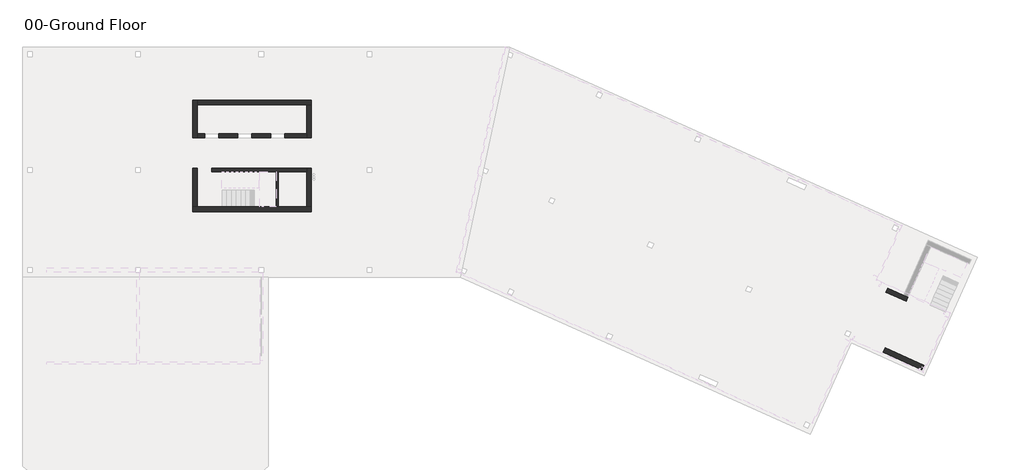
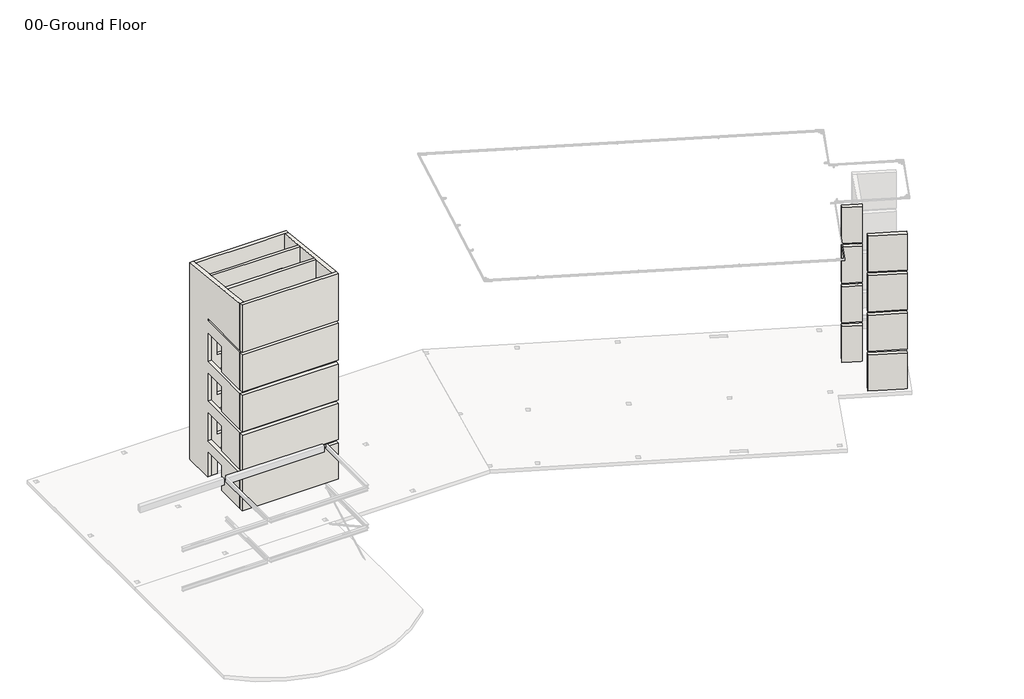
# One storey, part 1 of 5: 9 walls.
"""IFC4 building model written with IfcOpenShell, lengths in millimetres."""

from ifc_helpers import new_model, si_unit, frame, origin, origin_with_axes, place, context, project, spatial, polyline, outline, extrude, faceted_brep, element, save

model = new_model("IFC4")

# Units and contexts
model_context = context("Model", 3, world=origin())
ifc_project = project(units=[si_unit("LENGTHUNIT", "METRE", prefix="MILLI")], contexts=[model_context])

# Site, building, storey
site = spatial("IfcSite", under=ifc_project)
building = spatial("IfcBuilding", under=site)
storey = spatial("IfcBuildingStorey", under=building, Name="00-Ground Floor", Elevation=0.0)

# Walls
placement = place(None, origin())
element("IfcWall", 1, ObjectType="6\" Blockwork with render", at=placement, inside=storey, context=model_context, shape_type="SweptSolid", body=[
    extrude(outline(polyline([(16103.6, -7632.7), (16103.6, -9893.3), (15951.2, -9893.3), (15951.2, -7632.7), (16103.6, -7632.7)])), origin_with_axes(), (0.0, 0.0, 1.0), 3048.0),
])
element("IfcWall", 2, ObjectType="RC Wall 10\"", at=placement, inside=storey, context=model_context, shape_type="Brep", body=[
    faceted_brep([(17945.1, -5422.9, 16899.0824764), (10858.5, -5422.9, 16899.0824764), (10858.5, -5422.9, 13411.2), (10858.5, -5422.9, 13208.0), (10858.5, -5422.9, 12192.0), (10858.5, -5422.9, 10058.4), (10858.5, -5422.9, 9753.6), (10858.5, -5422.9, 8839.2), (10858.5, -5422.9, 6705.6), (10858.5, -5422.9, 6400.8), (10858.5, -5422.9, 5486.4), (10858.5, -5422.9, 3352.8), (10858.5, -5422.9, 3048.0), (10858.5, -5422.9, 2133.6), (10858.5, -5422.9, 0.0), (11328.4, -5422.9, 0.0), (11328.4, -5422.9, 2133.6), (12242.8, -5422.9, 2133.6), (12242.8, -5422.9, 0.0), (13474.7, -5422.9, 0.0), (13474.7, -5422.9, 2133.6), (14389.1, -5422.9, 2133.6), (14389.1, -5422.9, 0.0), (15608.3, -5422.9, 0.0), (15608.3, -5422.9, 2133.6), (16522.7, -5422.9, 2133.6), (16522.7, -5422.9, 0.0), (17945.1, -5422.9, 0.0), (17945.1, -5422.9, 2133.6), (17945.1, -5422.9, 3048.0), (17005.3, -5422.9, 3048.0), (17005.3, -5422.9, 3352.8), (17945.1, -5422.9, 3352.8), (17945.1, -5422.9, 5486.4), (17945.1, -5422.9, 6400.8), (17005.3, -5422.9, 6400.8), (17005.3, -5422.9, 6705.6), (17945.1, -5422.9, 6705.6), (17945.1, -5422.9, 8839.2), (17945.1, -5422.9, 9753.6), (17005.3, -5422.9, 9753.6), (17005.3, -5422.9, 10058.4), (17945.1, -5422.9, 10058.4), (17945.1, -5422.9, 12192.0), (17945.1, -5422.9, 13208.0), (17005.3, -5422.9, 13208.0), (17005.3, -5422.9, 13411.2), (17945.1, -5422.9, 13411.2), (17945.1, -5422.9, 15544.8), (15608.3, -5422.9, 3352.8), (15608.3, -5422.9, 5486.4), (16522.7, -5422.9, 5486.4), (16522.7, -5422.9, 3352.8), (13474.7, -5422.9, 3352.8), (13474.7, -5422.9, 5486.4), (14389.1, -5422.9, 5486.4), (14389.1, -5422.9, 3352.8), (11328.4, -5422.9, 3352.8), (11328.4, -5422.9, 5486.4), (12242.8, -5422.9, 5486.4), (12242.8, -5422.9, 3352.8), (15608.3, -5422.9, 6705.6), (15608.3, -5422.9, 8839.2), (16522.7, -5422.9, 8839.2), (16522.7, -5422.9, 6705.6), (13474.7, -5422.9, 6705.6), (13474.7, -5422.9, 8839.2), (14389.1, -5422.9, 8839.2), (14389.1, -5422.9, 6705.6), (11328.4, -5422.9, 6705.6), (11328.4, -5422.9, 8839.2), (12242.8, -5422.9, 8839.2), (12242.8, -5422.9, 6705.6), (15608.3, -5422.9, 10058.4), (15608.3, -5422.9, 12192.0), (16522.7, -5422.9, 12192.0), (16522.7, -5422.9, 10058.4), (13474.7, -5422.9, 10058.4), (13474.7, -5422.9, 12192.0), (14389.1, -5422.9, 12192.0), (14389.1, -5422.9, 10058.4), (11328.4, -5422.9, 10058.4), (11328.4, -5422.9, 12192.0), (12242.8, -5422.9, 12192.0), (12242.8, -5422.9, 10058.4), (15608.3, -5422.9, 13411.2), (15608.3, -5422.9, 15544.8), (16522.7, -5422.9, 15544.8), (16522.7, -5422.9, 13411.2), (13474.7, -5422.9, 13411.2), (13474.7, -5422.9, 15544.8), (14389.1, -5422.9, 15544.8), (14389.1, -5422.9, 13411.2), (11328.4, -5422.9, 13411.2), (11328.4, -5422.9, 15544.8), (12242.8, -5422.9, 15544.8), (12242.8, -5422.9, 13411.2), (10858.5, -5168.9, 0.0), (10858.5, -5168.9, 16872.3860006), (12738.1, -5168.9, 16872.3860006), (12992.1, -5168.9, 16872.3860006), (14871.7, -5168.9, 16872.3860006), (15125.7, -5168.9, 16872.3860006), (17945.1, -5168.9, 16872.3860006), (17945.1, -5168.9, 13411.2), (17005.3, -5168.9, 13411.2), (17005.3, -5168.9, 13208.0), (17945.1, -5168.9, 13208.0), (17945.1, -5168.9, 10058.4), (17005.3, -5168.9, 10058.4), (17005.3, -5168.9, 9753.6), (17945.1, -5168.9, 9753.6), (17945.1, -5168.9, 6705.6), (17005.3, -5168.9, 6705.6), (17005.3, -5168.9, 6400.8), (17945.1, -5168.9, 6400.8), (17945.1, -5168.9, 3352.8), (17005.3, -5168.9, 3352.8), (17005.3, -5168.9, 3048.0), (17945.1, -5168.9, 3048.0), (17945.1, -5168.9, 0.0), (16522.7, -5168.9, 0.0), (16522.7, -5168.9, 2133.6), (15608.3, -5168.9, 2133.6), (15608.3, -5168.9, 0.0), (15125.7, -5168.9, 0.0), (14871.7, -5168.9, 0.0), (14389.1, -5168.9, 0.0), (14389.1, -5168.9, 2133.6), (13474.7, -5168.9, 2133.6), (13474.7, -5168.9, 0.0), (12992.1, -5168.9, 0.0), (12738.1, -5168.9, 0.0), (12242.8, -5168.9, 0.0), (12242.8, -5168.9, 2133.6), (11328.4, -5168.9, 2133.6), (11328.4, -5168.9, 0.0), (15608.3, -5168.9, 5486.4), (15608.3, -5168.9, 3352.8), (16522.7, -5168.9, 3352.8), (16522.7, -5168.9, 5486.4), (13474.7, -5168.9, 5486.4), (13474.7, -5168.9, 3352.8), (14389.1, -5168.9, 3352.8), (14389.1, -5168.9, 5486.4), (11328.4, -5168.9, 5486.4), (11328.4, -5168.9, 3352.8), (12242.8, -5168.9, 3352.8), (12242.8, -5168.9, 5486.4), (15608.3, -5168.9, 8839.2), (15608.3, -5168.9, 6705.6), (16522.7, -5168.9, 6705.6), (16522.7, -5168.9, 8839.2), (13474.7, -5168.9, 8839.2), (13474.7, -5168.9, 6705.6), (14389.1, -5168.9, 6705.6), (14389.1, -5168.9, 8839.2), (11328.4, -5168.9, 8839.2), (11328.4, -5168.9, 6705.6), (12242.8, -5168.9, 6705.6), (12242.8, -5168.9, 8839.2), (15608.3, -5168.9, 12192.0), (15608.3, -5168.9, 10058.4), (16522.7, -5168.9, 10058.4), (16522.7, -5168.9, 12192.0), (13474.7, -5168.9, 12192.0), (13474.7, -5168.9, 10058.4), (14389.1, -5168.9, 10058.4), (14389.1, -5168.9, 12192.0), (11328.4, -5168.9, 12192.0), (11328.4, -5168.9, 10058.4), (12242.8, -5168.9, 10058.4), (12242.8, -5168.9, 12192.0), (15608.3, -5168.9, 15544.8), (15608.3, -5168.9, 13411.2), (16522.7, -5168.9, 13411.2), (16522.7, -5168.9, 15544.8), (13474.7, -5168.9, 15544.8), (13474.7, -5168.9, 13411.2), (14389.1, -5168.9, 13411.2), (14389.1, -5168.9, 15544.8), (11328.4, -5168.9, 15544.8), (11328.4, -5168.9, 13411.2), (12242.8, -5168.9, 13411.2), (12242.8, -5168.9, 15544.8)], [[[0, 1, 2, 3, 4, 5, 6, 7, 8, 9, 10, 11, 12, 13, 14, 15, 16, 17, 18, 19, 20, 21, 22, 23, 24, 25, 26, 27, 28, 29, 30, 31, 32, 33, 34, 35, 36, 37, 38, 39, 40, 41, 42, 43, 44, 45, 46, 47, 48], [49, 50, 51, 52], [53, 54, 55, 56], [57, 58, 59, 60], [61, 62, 63, 64], [65, 66, 67, 68], [69, 70, 71, 72], [73, 74, 75, 76], [77, 78, 79, 80], [81, 82, 83, 84], [85, 86, 87, 88], [89, 90, 91, 92], [93, 94, 95, 96]], [[97, 98, 99, 100, 101, 102, 103, 104, 105, 106, 107, 108, 109, 110, 111, 112, 113, 114, 115, 116, 117, 118, 119, 120, 121, 122, 123, 124, 125, 126, 127, 128, 129, 130, 131, 132, 133, 134, 135, 136], [137, 138, 139, 140], [141, 142, 143, 144], [145, 146, 147, 148], [149, 150, 151, 152], [153, 154, 155, 156], [157, 158, 159, 160], [161, 162, 163, 164], [165, 166, 167, 168], [169, 170, 171, 172], [173, 174, 175, 176], [177, 178, 179, 180], [181, 182, 183, 184]], [[14, 97, 136, 15]], [[120, 27, 26, 121]], [[18, 133, 132, 131, 130, 19]], [[22, 127, 126, 125, 124, 23]], [[98, 97, 14, 13, 12, 11, 10, 9, 8, 7, 6, 5, 4, 3, 2, 1]], [[27, 120, 119, 29, 28]], [[103, 0, 48, 47, 104]], [[107, 44, 43, 42, 108]], [[111, 39, 38, 37, 112]], [[115, 34, 33, 32, 116]], [[1, 0, 103, 102, 101, 100, 99, 98]], [[136, 135, 16, 15]], [[134, 133, 18, 17]], [[135, 134, 17, 16]], [[130, 129, 20, 19]], [[128, 127, 22, 21]], [[129, 128, 21, 20]], [[124, 123, 24, 23]], [[122, 121, 26, 25]], [[123, 122, 25, 24]], [[138, 137, 50, 49]], [[139, 138, 49, 52]], [[140, 139, 52, 51]], [[137, 140, 51, 50]], [[142, 141, 54, 53]], [[143, 142, 53, 56]], [[144, 143, 56, 55]], [[141, 144, 55, 54]], [[146, 145, 58, 57]], [[147, 146, 57, 60]], [[148, 147, 60, 59]], [[145, 148, 59, 58]], [[150, 149, 62, 61]], [[151, 150, 61, 64]], [[152, 151, 64, 63]], [[149, 152, 63, 62]], [[154, 153, 66, 65]], [[155, 154, 65, 68]], [[156, 155, 68, 67]], [[153, 156, 67, 66]], [[158, 157, 70, 69]], [[159, 158, 69, 72]], [[160, 159, 72, 71]], [[157, 160, 71, 70]], [[162, 161, 74, 73]], [[163, 162, 73, 76]], [[164, 163, 76, 75]], [[161, 164, 75, 74]], [[166, 165, 78, 77]], [[167, 166, 77, 80]], [[168, 167, 80, 79]], [[165, 168, 79, 78]], [[170, 169, 82, 81]], [[171, 170, 81, 84]], [[172, 171, 84, 83]], [[169, 172, 83, 82]], [[174, 173, 86, 85]], [[175, 174, 85, 88]], [[176, 175, 88, 87]], [[173, 176, 87, 86]], [[178, 177, 90, 89]], [[179, 178, 89, 92]], [[180, 179, 92, 91]], [[177, 180, 91, 90]], [[182, 181, 94, 93]], [[183, 182, 93, 96]], [[184, 183, 96, 95]], [[181, 184, 95, 94]], [[106, 45, 44, 107]], [[46, 105, 104, 47]], [[45, 106, 105, 46]], [[110, 40, 39, 111]], [[41, 109, 108, 42]], [[40, 110, 109, 41]], [[114, 35, 34, 115]], [[36, 113, 112, 37]], [[35, 114, 113, 36]], [[118, 30, 29, 119]], [[31, 117, 116, 32]], [[30, 118, 117, 31]]]),
])
element("IfcWall", 3, ObjectType="RC Wall 10\"", at=placement, inside=storey, context=model_context, shape_type="Brep", body=[
    faceted_brep([(17945.1, -7632.7, 17131.3418155), (10858.5, -7632.7, 17131.3418155), (10858.5, -7632.7, 15544.8), (11772.9, -7632.7, 15544.8), (11772.9, -7632.7, 13411.2), (15951.2, -7632.7, 13411.2), (16103.6, -7632.7, 13411.2), (17945.1, -7632.7, 13411.2), (10858.5, -7378.7, 17104.6453397), (17945.1, -7378.7, 17104.6453397), (17945.1, -7378.7, 15544.8), (17945.1, -7378.7, 13411.2), (11772.9, -7378.7, 13411.2), (11772.9, -7378.7, 15544.8), (10858.5, -7378.7, 15544.8)], [[[0, 1, 2, 3, 4, 5, 6, 7]], [[8, 9, 10, 11, 12, 13, 14]], [[1, 8, 14, 2]], [[9, 0, 7, 11, 10]], [[1, 0, 9, 8]], [[13, 12, 4, 3]], [[14, 13, 3, 2]], [[7, 6, 5, 4, 12, 11]]]),
    faceted_brep([(11772.9, -7632.7, 0.0), (15951.2, -7632.7, 0.0), (16103.6, -7632.7, 0.0), (17945.1, -7632.7, 0.0), (17945.1, -7632.7, 3048.0), (16103.6, -7632.7, 3048.0), (15951.2, -7632.7, 3048.0), (10858.5, -7632.7, 3048.0), (10858.5, -7632.7, 2133.6), (11772.9, -7632.7, 2133.6), (17945.1, -7378.7, 0.0), (11772.9, -7378.7, 0.0), (11772.9, -7378.7, 2133.6), (10858.5, -7378.7, 2133.6), (10858.5, -7378.7, 3048.0), (17945.1, -7378.7, 3048.0), (17945.1, -7378.7, 2133.6)], [[[0, 1, 2, 3, 4, 5, 6, 7, 8, 9]], [[10, 11, 12, 13, 14, 15, 16]], [[10, 3, 2, 1, 0, 11]], [[13, 8, 7, 14]], [[3, 10, 16, 15, 4]], [[9, 12, 11, 0]], [[12, 9, 8, 13]], [[7, 6, 5, 4, 15, 14]]]),
    faceted_brep([(11772.9, -7632.7, 5486.4), (11772.9, -7632.7, 3352.8), (15951.2, -7632.7, 3352.8), (16103.6, -7632.7, 3352.8), (17945.1, -7632.7, 3352.8), (17945.1, -7632.7, 6400.8), (16103.6, -7632.7, 6400.8), (15951.2, -7632.7, 6400.8), (10858.5, -7632.7, 6400.8), (10858.5, -7632.7, 5486.4), (11772.9, -7378.7, 3352.8), (11772.9, -7378.7, 5486.4), (10858.5, -7378.7, 5486.4), (10858.5, -7378.7, 6400.8), (17945.1, -7378.7, 6400.8), (17945.1, -7378.7, 5486.4), (17945.1, -7378.7, 3352.8)], [[[0, 1, 2, 3, 4, 5, 6, 7, 8, 9]], [[10, 11, 12, 13, 14, 15, 16]], [[12, 9, 8, 13]], [[4, 16, 15, 14, 5]], [[11, 10, 1, 0]], [[12, 11, 0, 9]], [[4, 3, 2, 1, 10, 16]], [[8, 7, 6, 5, 14, 13]]]),
    faceted_brep([(11772.9, -7632.7, 8839.2), (11772.9, -7632.7, 6705.6), (15951.2, -7632.7, 6705.6), (16103.6, -7632.7, 6705.6), (17945.1, -7632.7, 6705.6), (17945.1, -7632.7, 9753.6), (16103.6, -7632.7, 9753.6), (15951.2, -7632.7, 9753.6), (10858.5, -7632.7, 9753.6), (10858.5, -7632.7, 8839.2), (11772.9, -7378.7, 6705.6), (11772.9, -7378.7, 8839.2), (10858.5, -7378.7, 8839.2), (10858.5, -7378.7, 9753.6), (17945.1, -7378.7, 9753.6), (17945.1, -7378.7, 8839.2), (17945.1, -7378.7, 6705.6)], [[[0, 1, 2, 3, 4, 5, 6, 7, 8, 9]], [[10, 11, 12, 13, 14, 15, 16]], [[12, 9, 8, 13]], [[4, 16, 15, 14, 5]], [[11, 10, 1, 0]], [[12, 11, 0, 9]], [[4, 3, 2, 1, 10, 16]], [[8, 7, 6, 5, 14, 13]]]),
    faceted_brep([(11772.9, -7632.7, 12192.0), (11772.9, -7632.7, 10058.4), (15951.2, -7632.7, 10058.4), (16103.6, -7632.7, 10058.4), (17945.1, -7632.7, 10058.4), (17945.1, -7632.7, 13208.0), (16103.6, -7632.7, 13208.0), (15951.2, -7632.7, 13208.0), (10858.5, -7632.7, 13208.0), (10858.5, -7632.7, 12192.0), (11772.9, -7378.7, 10058.4), (11772.9, -7378.7, 12192.0), (10858.5, -7378.7, 12192.0), (10858.5, -7378.7, 13208.0), (17945.1, -7378.7, 13208.0), (17945.1, -7378.7, 12192.0), (17945.1, -7378.7, 10058.4)], [[[0, 1, 2, 3, 4, 5, 6, 7, 8, 9]], [[10, 11, 12, 13, 14, 15, 16]], [[12, 9, 8, 13]], [[14, 5, 4, 16, 15]], [[11, 10, 1, 0]], [[12, 11, 0, 9]], [[8, 7, 6, 5, 14, 13]], [[4, 3, 2, 1, 10, 16]]]),
])
element("IfcWall", 4, ObjectType="RC Wall 12\"", at=placement, inside=storey, context=model_context, shape_type="Brep", body=[
    faceted_brep([(18249.9, -9893.3, 0.0), (17945.1, -9893.3, 0.0), (16103.6, -9893.3, 0.0), (15951.2, -9893.3, 0.0), (10858.5, -9893.3, 0.0), (10553.7, -9893.3, 0.0), (10553.7, -9893.3, 3048.0), (10858.5, -9893.3, 3048.0), (12446.0, -9893.3, 3048.0), (15951.2, -9893.3, 3048.0), (16103.6, -9893.3, 3048.0), (17945.1, -9893.3, 3048.0), (18249.9, -9893.3, 3048.0), (10553.7, -10198.1, 0.0), (18249.9, -10198.1, 0.0), (18249.9, -10198.1, 3048.0), (10553.7, -10198.1, 3048.0)], [[[0, 1, 2, 3, 4, 5, 6, 7, 8, 9, 10, 11, 12]], [[13, 14, 15, 16]], [[5, 4, 3, 2, 1, 0, 14, 13]], [[5, 13, 16, 6]], [[14, 0, 12, 15]], [[8, 7, 6, 16, 15, 12, 11, 10, 9]]]),
    faceted_brep([(10553.7, -9893.3, 17368.9404497), (10858.5, -9893.3, 17368.9404497), (17945.1, -9893.3, 17368.9404497), (18249.9, -9893.3, 17368.9404497), (18249.9, -9893.3, 13411.2), (17945.1, -9893.3, 13411.2), (16103.6, -9893.3, 13411.2), (15951.2, -9893.3, 13411.2), (12446.0, -9893.3, 13411.2), (10858.5, -9893.3, 13411.2), (10553.7, -9893.3, 13411.2), (18249.9, -10198.1, 17400.9762206), (10553.7, -10198.1, 17400.9762206), (10553.7, -10198.1, 13411.2), (18249.9, -10198.1, 13411.2)], [[[0, 1, 2, 3, 4, 5, 6, 7, 8, 9, 10]], [[11, 12, 13, 14]], [[12, 0, 10, 13]], [[3, 11, 14, 4]], [[3, 2, 1, 0, 12, 11]], [[10, 9, 8, 7, 6, 5, 4, 14, 13]]]),
    faceted_brep([(10553.7, -9893.3, 13208.0), (10858.5, -9893.3, 13208.0), (12446.0, -9893.3, 13208.0), (15951.2, -9893.3, 13208.0), (16103.6, -9893.3, 13208.0), (17945.1, -9893.3, 13208.0), (18249.9, -9893.3, 13208.0), (18249.9, -9893.3, 10058.4), (17945.1, -9893.3, 10058.4), (16103.6, -9893.3, 10058.4), (15951.2, -9893.3, 10058.4), (12446.0, -9893.3, 10058.4), (10858.5, -9893.3, 10058.4), (10553.7, -9893.3, 10058.4), (18249.9, -10198.1, 13208.0), (10553.7, -10198.1, 13208.0), (10553.7, -10198.1, 10058.4), (18249.9, -10198.1, 10058.4)], [[[0, 1, 2, 3, 4, 5, 6, 7, 8, 9, 10, 11, 12, 13]], [[14, 15, 16, 17]], [[15, 0, 13, 16]], [[6, 14, 17, 7]], [[2, 1, 0, 15, 14, 6, 5, 4, 3]], [[13, 12, 11, 10, 9, 8, 7, 17, 16]]]),
    faceted_brep([(10553.7, -9893.3, 9753.6), (10858.5, -9893.3, 9753.6), (12446.0, -9893.3, 9753.6), (15951.2, -9893.3, 9753.6), (16103.6, -9893.3, 9753.6), (17945.1, -9893.3, 9753.6), (18249.9, -9893.3, 9753.6), (18249.9, -9893.3, 6705.6), (17945.1, -9893.3, 6705.6), (16103.6, -9893.3, 6705.6), (15951.2, -9893.3, 6705.6), (12446.0, -9893.3, 6705.6), (10858.5, -9893.3, 6705.6), (10553.7, -9893.3, 6705.6), (18249.9, -10198.1, 9753.6), (10553.7, -10198.1, 9753.6), (10553.7, -10198.1, 6705.6), (18249.9, -10198.1, 6705.6)], [[[0, 1, 2, 3, 4, 5, 6, 7, 8, 9, 10, 11, 12, 13]], [[14, 15, 16, 17]], [[15, 0, 13, 16]], [[6, 14, 17, 7]], [[2, 1, 0, 15, 14, 6, 5, 4, 3]], [[13, 12, 11, 10, 9, 8, 7, 17, 16]]]),
    faceted_brep([(10553.7, -9893.3, 6400.8), (10858.5, -9893.3, 6400.8), (12446.0, -9893.3, 6400.8), (15951.2, -9893.3, 6400.8), (16103.6, -9893.3, 6400.8), (17945.1, -9893.3, 6400.8), (18249.9, -9893.3, 6400.8), (18249.9, -9893.3, 3352.8), (17945.1, -9893.3, 3352.8), (16103.6, -9893.3, 3352.8), (15951.2, -9893.3, 3352.8), (12446.0, -9893.3, 3352.8), (10858.5, -9893.3, 3352.8), (10553.7, -9893.3, 3352.8), (18249.9, -10198.1, 6400.8), (10553.7, -10198.1, 6400.8), (10553.7, -10198.1, 3352.8), (18249.9, -10198.1, 3352.8)], [[[0, 1, 2, 3, 4, 5, 6, 7, 8, 9, 10, 11, 12, 13]], [[14, 15, 16, 17]], [[15, 0, 13, 16]], [[6, 14, 17, 7]], [[2, 1, 0, 15, 14, 6, 5, 4, 3]], [[13, 12, 11, 10, 9, 8, 7, 17, 16]]]),
])
element("IfcWall", 5, ObjectType="RC Wall 12\"", at=placement, inside=storey, context=model_context, shape_type="Brep", body=[
    faceted_brep([(10858.5, -2984.5, 16642.7963091), (10858.5, -3289.3, 16674.83208), (10858.5, -5168.9, 16872.3860006), (10858.5, -5422.9, 16899.0824764), (10858.5, -7378.7, 17104.6453397), (10858.5, -7632.7, 17131.3418155), (10858.5, -9893.3, 17368.9404497), (10858.5, -9893.3, 13411.2), (10858.5, -5422.9, 13411.2), (10858.5, -5422.9, 13208.0), (10858.5, -7378.7, 13208.0), (10858.5, -7632.7, 13208.0), (10858.5, -9893.3, 13208.0), (10858.5, -9893.3, 10058.4), (10858.5, -7378.7, 10058.4), (10858.5, -7378.7, 12192.0), (10858.5, -5422.9, 12192.0), (10858.5, -5422.9, 9753.6), (10858.5, -7378.7, 9753.6), (10858.5, -7632.7, 9753.6), (10858.5, -9893.3, 9753.6), (10858.5, -9893.3, 6705.6), (10858.5, -7378.7, 6705.6), (10858.5, -7378.7, 8839.2), (10858.5, -5422.9, 8839.2), (10858.5, -5422.9, 6400.8), (10858.5, -7378.7, 6400.8), (10858.5, -7632.7, 6400.8), (10858.5, -9893.3, 6400.8), (10858.5, -9893.3, 3352.8), (10858.5, -7378.7, 3352.8), (10858.5, -7378.7, 5486.4), (10858.5, -5422.9, 5486.4), (10858.5, -5422.9, 3048.0), (10858.5, -7378.7, 3048.0), (10858.5, -7632.7, 3048.0), (10858.5, -9893.3, 3048.0), (10858.5, -9893.3, 0.0), (10858.5, -7378.7, 0.0), (10858.5, -7378.7, 2133.6), (10858.5, -5422.9, 2133.6), (10858.5, -5422.9, 0.0), (10858.5, -5168.9, 0.0), (10858.5, -3289.3, 0.0), (10858.5, -2984.5, 0.0), (10858.5, -2984.5, 3048.0), (10858.5, -2984.5, 3352.8), (10858.5, -2984.5, 6400.8), (10858.5, -2984.5, 6705.6), (10858.5, -2984.5, 9753.6), (10858.5, -2984.5, 10058.4), (10553.7, -9893.3, 17368.9404497), (10553.7, -2984.5, 16642.7963091), (10553.7, -2984.5, 10058.4), (10553.7, -2984.5, 9753.6), (10553.7, -2984.5, 6705.6), (10553.7, -2984.5, 6400.8), (10553.7, -2984.5, 3352.8), (10553.7, -2984.5, 3048.0), (10553.7, -2984.5, 0.0), (10553.7, -5422.9, 0.0), (10553.7, -5422.9, 2133.6), (10553.7, -7378.7, 2133.6), (10553.7, -7378.7, 0.0), (10553.7, -9893.3, 0.0), (10553.7, -9893.3, 3048.0), (10553.7, -5422.9, 3048.0), (10553.7, -5422.9, 3352.8), (10553.7, -5422.9, 5486.4), (10553.7, -7378.7, 5486.4), (10553.7, -7378.7, 3352.8), (10553.7, -9893.3, 3352.8), (10553.7, -9893.3, 6400.8), (10553.7, -5422.9, 6400.8), (10553.7, -5422.9, 6705.6), (10553.7, -5422.9, 8839.2), (10553.7, -7378.7, 8839.2), (10553.7, -7378.7, 6705.6), (10553.7, -9893.3, 6705.6), (10553.7, -9893.3, 9753.6), (10553.7, -5422.9, 9753.6), (10553.7, -5422.9, 10058.4), (10553.7, -5422.9, 12192.0), (10553.7, -7378.7, 12192.0), (10553.7, -7378.7, 10058.4), (10553.7, -9893.3, 10058.4), (10553.7, -9893.3, 13208.0), (10553.7, -5422.9, 13208.0), (10553.7, -5422.9, 13411.2), (10553.7, -9893.3, 13411.2)], [[[0, 1, 2, 3, 4, 5, 6, 7, 8, 9, 10, 11, 12, 13, 14, 15, 16, 17, 18, 19, 20, 21, 22, 23, 24, 25, 26, 27, 28, 29, 30, 31, 32, 33, 34, 35, 36, 37, 38, 39, 40, 41, 42, 43, 44, 45, 46, 47, 48, 49, 50]], [[51, 52, 53, 54, 55, 56, 57, 58, 59, 60, 61, 62, 63, 64, 65, 66, 67, 68, 69, 70, 71, 72, 73, 74, 75, 76, 77, 78, 79, 80, 81, 82, 83, 84, 85, 86, 87, 88, 89]], [[37, 64, 63, 38]], [[59, 44, 43, 42, 41, 60]], [[64, 37, 36, 65]], [[6, 51, 89, 7]], [[12, 86, 85, 13]], [[20, 79, 78, 21]], [[28, 72, 71, 29]], [[44, 59, 58, 57, 56, 55, 54, 53, 52, 0, 50, 49, 48, 47, 46, 45]], [[6, 5, 4, 3, 2, 1, 0, 52, 51]], [[41, 40, 61, 60]], [[39, 38, 63, 62]], [[40, 39, 62, 61]], [[32, 68, 67, 66, 33]], [[31, 30, 70, 69]], [[32, 31, 69, 68]], [[24, 75, 74, 73, 25]], [[23, 22, 77, 76]], [[24, 23, 76, 75]], [[16, 82, 81, 80, 17]], [[15, 14, 84, 83]], [[16, 15, 83, 82]], [[9, 87, 86, 12, 11, 10]], [[88, 8, 7, 89]], [[87, 9, 8, 88]], [[17, 80, 79, 20, 19, 18]], [[14, 13, 85, 84]], [[25, 73, 72, 28, 27, 26]], [[22, 21, 78, 77]], [[33, 66, 65, 36, 35, 34]], [[30, 29, 71, 70]]]),
])
element("IfcWall", 6, ObjectType="RC Wall 12\"", at=placement, inside=storey, context=model_context, shape_type="Brep", body=[
    faceted_brep([(10858.5, -3289.3, 0.0), (12738.1, -3289.3, 0.0), (12992.1, -3289.3, 0.0), (14871.7, -3289.3, 0.0), (15125.7, -3289.3, 0.0), (17945.1, -3289.3, 0.0), (18249.9, -3289.3, 0.0), (18249.9, -3289.3, 3048.0), (17945.1, -3289.3, 3048.0), (17005.3, -3289.3, 3048.0), (17005.3, -3289.3, 3352.8), (17945.1, -3289.3, 3352.8), (18249.9, -3289.3, 3352.8), (18249.9, -3289.3, 6400.8), (17945.1, -3289.3, 6400.8), (17005.3, -3289.3, 6400.8), (17005.3, -3289.3, 6705.6), (17945.1, -3289.3, 6705.6), (18249.9, -3289.3, 6705.6), (18249.9, -3289.3, 9753.6), (17945.1, -3289.3, 9753.6), (17005.3, -3289.3, 9753.6), (17005.3, -3289.3, 10058.4), (17945.1, -3289.3, 10058.4), (18249.9, -3289.3, 10058.4), (18249.9, -3289.3, 13208.0), (17945.1, -3289.3, 13208.0), (17005.3, -3289.3, 13208.0), (17005.3, -3289.3, 13411.2), (17945.1, -3289.3, 13411.2), (18249.9, -3289.3, 13411.2), (18249.9, -3289.3, 16674.83208), (17945.1, -3289.3, 16674.83208), (15125.7, -3289.3, 16674.83208), (14871.7, -3289.3, 16674.83208), (12992.1, -3289.3, 16674.83208), (12738.1, -3289.3, 16674.83208), (10858.5, -3289.3, 16674.83208), (18249.9, -2984.5, 0.0), (10858.5, -2984.5, 0.0), (10858.5, -2984.5, 3048.0), (10858.5, -2984.5, 3352.8), (10858.5, -2984.5, 6400.8), (10858.5, -2984.5, 6705.6), (10858.5, -2984.5, 9753.6), (10858.5, -2984.5, 10058.4), (10858.5, -2984.5, 16642.7963091), (18249.9, -2984.5, 16642.7963091), (18249.9, -2984.5, 13411.2), (17005.3, -2984.5, 13411.2), (17005.3, -2984.5, 13208.0), (18249.9, -2984.5, 13208.0), (18249.9, -2984.5, 10058.4), (17005.3, -2984.5, 10058.4), (17005.3, -2984.5, 9753.6), (18249.9, -2984.5, 9753.6), (18249.9, -2984.5, 6705.6), (17005.3, -2984.5, 6705.6), (17005.3, -2984.5, 6400.8), (18249.9, -2984.5, 6400.8), (18249.9, -2984.5, 3352.8), (17005.3, -2984.5, 3352.8), (17005.3, -2984.5, 3048.0), (18249.9, -2984.5, 3048.0)], [[[0, 1, 2, 3, 4, 5, 6, 7, 8, 9, 10, 11, 12, 13, 14, 15, 16, 17, 18, 19, 20, 21, 22, 23, 24, 25, 26, 27, 28, 29, 30, 31, 32, 33, 34, 35, 36, 37]], [[38, 39, 40, 41, 42, 43, 44, 45, 46, 47, 48, 49, 50, 51, 52, 53, 54, 55, 56, 57, 58, 59, 60, 61, 62, 63]], [[6, 5, 4, 3, 2, 1, 0, 39, 38]], [[0, 37, 46, 45, 44, 43, 42, 41, 40, 39]], [[47, 31, 30, 48]], [[51, 25, 24, 52]], [[55, 19, 18, 56]], [[59, 13, 12, 60]], [[6, 38, 63, 7]], [[37, 36, 35, 34, 33, 32, 31, 47, 46]], [[50, 27, 26, 25, 51]], [[28, 49, 48, 30, 29]], [[27, 50, 49, 28]], [[54, 21, 20, 19, 55]], [[22, 53, 52, 24, 23]], [[21, 54, 53, 22]], [[58, 15, 14, 13, 59]], [[16, 57, 56, 18, 17]], [[15, 58, 57, 16]], [[62, 9, 8, 7, 63]], [[10, 61, 60, 12, 11]], [[9, 62, 61, 10]]]),
])
element("IfcWall", 7, ObjectType="RC Wall 12\"", at=placement, inside=storey, context=model_context, shape_type="Brep", body=[
    faceted_brep([(17945.1, -9893.3, 17368.9404497), (17945.1, -7632.7, 17131.3418155), (17945.1, -7378.7, 17104.6453397), (17945.1, -5422.9, 16899.0824764), (17945.1, -5168.9, 16872.3860006), (17945.1, -3289.3, 16674.83208), (17945.1, -3289.3, 13411.2), (17945.1, -5168.9, 13411.2), (17945.1, -5422.9, 13411.2), (17945.1, -5422.9, 15544.8), (17945.1, -7378.7, 15544.8), (17945.1, -7378.7, 13411.2), (17945.1, -7632.7, 13411.2), (17945.1, -9893.3, 13411.2), (18249.9, -3289.3, 16674.83208), (18249.9, -9893.3, 17368.9404497), (18249.9, -9893.3, 13411.2), (18249.9, -7378.7, 13411.2), (18249.9, -7378.7, 15544.8), (18249.9, -5422.9, 15544.8), (18249.9, -5422.9, 13411.2), (18249.9, -3289.3, 13411.2)], [[[0, 1, 2, 3, 4, 5, 6, 7, 8, 9, 10, 11, 12, 13]], [[14, 15, 16, 17, 18, 19, 20, 21]], [[15, 0, 13, 16]], [[5, 14, 21, 6]], [[5, 4, 3, 2, 1, 0, 15, 14]], [[21, 20, 8, 7, 6]], [[13, 12, 11, 17, 16]], [[20, 19, 9, 8]], [[18, 17, 11, 10]], [[19, 18, 10, 9]]]),
    faceted_brep([(17945.1, -5422.9, 0.0), (17945.1, -5422.9, 2133.6), (17945.1, -7378.7, 2133.6), (17945.1, -7378.7, 0.0), (17945.1, -7632.7, 0.0), (17945.1, -9893.3, 0.0), (17945.1, -9893.3, 3048.0), (17945.1, -7632.7, 3048.0), (17945.1, -7378.7, 3048.0), (17945.1, -5422.9, 3048.0), (17945.1, -5168.9, 3048.0), (17945.1, -3289.3, 3048.0), (17945.1, -3289.3, 0.0), (17945.1, -5168.9, 0.0), (18249.9, -5422.9, 2133.6), (18249.9, -5422.9, 0.0), (18249.9, -3289.3, 0.0), (18249.9, -3289.3, 3048.0), (18249.9, -9893.3, 3048.0), (18249.9, -9893.3, 0.0), (18249.9, -7378.7, 0.0), (18249.9, -7378.7, 2133.6)], [[[0, 1, 2, 3, 4, 5, 6, 7, 8, 9, 10, 11, 12, 13]], [[14, 15, 16, 17, 18, 19, 20, 21]], [[12, 16, 15, 0, 13]], [[19, 5, 4, 3, 20]], [[5, 19, 18, 6]], [[16, 12, 11, 17]], [[15, 14, 1, 0]], [[21, 20, 3, 2]], [[14, 21, 2, 1]], [[11, 10, 9, 8, 7, 6, 18, 17]]]),
    faceted_brep([(17945.1, -5422.9, 3352.8), (17945.1, -5422.9, 5486.4), (17945.1, -7378.7, 5486.4), (17945.1, -7378.7, 3352.8), (17945.1, -7632.7, 3352.8), (17945.1, -9893.3, 3352.8), (17945.1, -9893.3, 6400.8), (17945.1, -7632.7, 6400.8), (17945.1, -7378.7, 6400.8), (17945.1, -5422.9, 6400.8), (17945.1, -5168.9, 6400.8), (17945.1, -3289.3, 6400.8), (17945.1, -3289.3, 3352.8), (17945.1, -5168.9, 3352.8), (18249.9, -5422.9, 5486.4), (18249.9, -5422.9, 3352.8), (18249.9, -3289.3, 3352.8), (18249.9, -3289.3, 6400.8), (18249.9, -9893.3, 6400.8), (18249.9, -9893.3, 3352.8), (18249.9, -7378.7, 3352.8), (18249.9, -7378.7, 5486.4)], [[[0, 1, 2, 3, 4, 5, 6, 7, 8, 9, 10, 11, 12, 13]], [[14, 15, 16, 17, 18, 19, 20, 21]], [[18, 6, 5, 19]], [[11, 17, 16, 12]], [[15, 14, 1, 0]], [[21, 20, 3, 2]], [[14, 21, 2, 1]], [[11, 10, 9, 8, 7, 6, 18, 17]], [[0, 13, 12, 16, 15]], [[5, 4, 3, 20, 19]]]),
    faceted_brep([(17945.1, -5422.9, 6705.6), (17945.1, -5422.9, 8839.2), (17945.1, -7378.7, 8839.2), (17945.1, -7378.7, 6705.6), (17945.1, -7632.7, 6705.6), (17945.1, -9893.3, 6705.6), (17945.1, -9893.3, 9753.6), (17945.1, -7632.7, 9753.6), (17945.1, -7378.7, 9753.6), (17945.1, -5422.9, 9753.6), (17945.1, -5168.9, 9753.6), (17945.1, -3289.3, 9753.6), (17945.1, -3289.3, 6705.6), (17945.1, -5168.9, 6705.6), (18249.9, -5422.9, 8839.2), (18249.9, -5422.9, 6705.6), (18249.9, -3289.3, 6705.6), (18249.9, -3289.3, 9753.6), (18249.9, -9893.3, 9753.6), (18249.9, -9893.3, 6705.6), (18249.9, -7378.7, 6705.6), (18249.9, -7378.7, 8839.2)], [[[0, 1, 2, 3, 4, 5, 6, 7, 8, 9, 10, 11, 12, 13]], [[14, 15, 16, 17, 18, 19, 20, 21]], [[18, 6, 5, 19]], [[11, 17, 16, 12]], [[15, 14, 1, 0]], [[21, 20, 3, 2]], [[14, 21, 2, 1]], [[11, 10, 9, 8, 7, 6, 18, 17]], [[0, 13, 12, 16, 15]], [[5, 4, 3, 20, 19]]]),
    faceted_brep([(17945.1, -5422.9, 10058.4), (17945.1, -5422.9, 12192.0), (17945.1, -7378.7, 12192.0), (17945.1, -7378.7, 10058.4), (17945.1, -7632.7, 10058.4), (17945.1, -9893.3, 10058.4), (17945.1, -9893.3, 13208.0), (17945.1, -7632.7, 13208.0), (17945.1, -7378.7, 13208.0), (17945.1, -5422.9, 13208.0), (17945.1, -5168.9, 13208.0), (17945.1, -3289.3, 13208.0), (17945.1, -3289.3, 10058.4), (17945.1, -5168.9, 10058.4), (18249.9, -5422.9, 12192.0), (18249.9, -5422.9, 10058.4), (18249.9, -3289.3, 10058.4), (18249.9, -3289.3, 13208.0), (18249.9, -9893.3, 13208.0), (18249.9, -9893.3, 10058.4), (18249.9, -7378.7, 10058.4), (18249.9, -7378.7, 12192.0)], [[[0, 1, 2, 3, 4, 5, 6, 7, 8, 9, 10, 11, 12, 13]], [[14, 15, 16, 17, 18, 19, 20, 21]], [[18, 6, 5, 19]], [[11, 17, 16, 12]], [[15, 14, 1, 0]], [[21, 20, 3, 2]], [[14, 21, 2, 1]], [[11, 10, 9, 8, 7, 6, 18, 17]], [[0, 13, 12, 16, 15]], [[5, 4, 3, 20, 19]]]),
])
element("IfcWall", 8, ObjectType="RC Wall 12\"", at=placement, inside=storey, context=model_context, shape_type="Brep", body=[
    faceted_brep([(55480.1253608, -15435.8210954, 0.0), (56785.8662551, -16022.3571121, 0.0), (56785.8662551, -16022.3571121, 3048.0), (55480.1253608, -15435.8210954, 3048.0), (56910.7599136, -15744.3200389, 0.0), (56632.7228404, -15619.4263804, 0.0), (55605.0190193, -15157.7840222, 0.0), (55605.0190193, -15157.7840222, 3048.0), (56632.7228404, -15619.4263804, 3048.0), (56910.7599136, -15744.3200389, 3048.0)], [[[0, 1, 2, 3]], [[4, 5, 6, 7, 8, 9]], [[1, 0, 6, 5, 4]], [[6, 0, 3, 7]], [[1, 4, 9, 2]], [[3, 2, 9, 8, 7]]]),
    faceted_brep([(56785.8662551, -16022.3571121, 13106.4), (55480.1253608, -15435.8210954, 13106.4), (55480.1253608, -15435.8210954, 10058.4), (56785.8662551, -16022.3571121, 10058.4), (55605.0190193, -15157.7840222, 13106.4), (56632.7228404, -15619.4263804, 13106.4), (56910.7599136, -15744.3200389, 13106.4), (56910.7599136, -15744.3200389, 10058.4), (56632.7228404, -15619.4263804, 10058.4), (55605.0190193, -15157.7840222, 10058.4)], [[[0, 1, 2, 3]], [[4, 5, 6, 7, 8, 9]], [[1, 4, 9, 2]], [[6, 0, 3, 7]], [[1, 0, 6, 5, 4]], [[3, 2, 9, 8, 7]]]),
    faceted_brep([(56785.8662551, -16022.3571121, 9753.6), (55480.1253608, -15435.8210954, 9753.6), (55480.1253608, -15435.8210954, 6705.6), (56785.8662551, -16022.3571121, 6705.6), (55605.0190193, -15157.7840222, 9753.6), (56632.7228404, -15619.4263804, 9753.6), (56910.7599136, -15744.3200389, 9753.6), (56910.7599136, -15744.3200389, 6705.6), (56632.7228404, -15619.4263804, 6705.6), (55605.0190193, -15157.7840222, 6705.6)], [[[0, 1, 2, 3]], [[4, 5, 6, 7, 8, 9]], [[1, 4, 9, 2]], [[6, 0, 3, 7]], [[1, 0, 6, 5, 4]], [[3, 2, 9, 8, 7]]]),
    faceted_brep([(56785.8662551, -16022.3571121, 6400.8), (55480.1253608, -15435.8210954, 6400.8), (55480.1253608, -15435.8210954, 3352.8), (56785.8662551, -16022.3571121, 3352.8), (55605.0190193, -15157.7840222, 6400.8), (56632.7228404, -15619.4263804, 6400.8), (56910.7599136, -15744.3200389, 6400.8), (56910.7599136, -15744.3200389, 3352.8), (56632.7228404, -15619.4263804, 3352.8), (55605.0190193, -15157.7840222, 3352.8)], [[[0, 1, 2, 3]], [[4, 5, 6, 7, 8, 9]], [[1, 4, 9, 2]], [[6, 0, 3, 7]], [[1, 0, 6, 5, 4]], [[3, 2, 9, 8, 7]]]),
])
element("IfcWall", 9, ObjectType="RC Wall 12\"", at=placement, inside=storey, context=model_context, shape_type="SweptSolid", body=[
    extrude(outline(polyline([(57809.7238961, -20437.7692683), (55307.3902376, -19313.7263415), (55432.2838961, -19035.6892683), (57934.6175546, -20159.7321951), (57809.7238961, -20437.7692683)])), origin_with_axes(), (0.0, 0.0, 1.0), 3048.0),
    extrude(outline(polyline([(57809.7238961, -20437.7692683), (55307.3902376, -19313.7263415), (55432.2838961, -19035.6892683), (57934.6175546, -20159.7321951), (57809.7238961, -20437.7692683)])), frame((0.0, 0.0, 10058.4), z_axis=(0.0, 0.0, 1.0), x_axis=(1.0, 0.0, 0.0)), (0.0, 0.0, 1.0), 3048.0),
    extrude(outline(polyline([(57809.7238961, -20437.7692683), (55307.3902376, -19313.7263415), (55432.2838961, -19035.6892683), (57934.6175546, -20159.7321951), (57809.7238961, -20437.7692683)])), frame((0.0, 0.0, 6705.6), z_axis=(0.0, 0.0, 1.0), x_axis=(1.0, 0.0, 0.0)), (0.0, 0.0, 1.0), 3048.0),
    extrude(outline(polyline([(57809.7238961, -20437.7692683), (55307.3902376, -19313.7263415), (55432.2838961, -19035.6892683), (57934.6175546, -20159.7321951), (57809.7238961, -20437.7692683)])), frame((0.0, 0.0, 3352.8), z_axis=(0.0, 0.0, 1.0), x_axis=(1.0, 0.0, 0.0)), (0.0, 0.0, 1.0), 3048.0),
])

save(model, "model.ifc")
